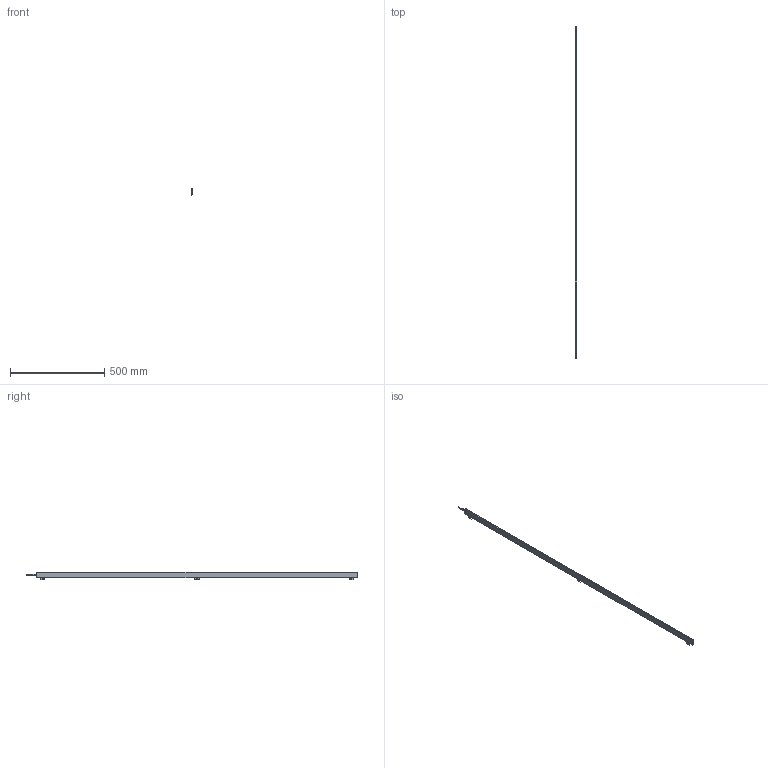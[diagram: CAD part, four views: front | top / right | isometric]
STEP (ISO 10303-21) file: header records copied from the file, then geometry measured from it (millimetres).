
FILE_DESCRIPTION (( 'STEP AP214' ), '1' );
FILE_NAME ('ILG-N-K2-1710mm.STEP', '2017-07-10T14:03:36', ( '' ), ( '' ), 'SwSTEP 2.0', 'SolidWorks 2016', '' );
FILE_SCHEMA (( 'AUTOMOTIVE_DESIGN' ));
Length unit declared in the file: millimetre
Products named in the file (1): ILG-N-K2-1710mm
Bounding box: 10.23 x 1763.5 x 42.41 mm (x, y, z)
Surface area: 287896 mm2 (no closed solid volume)
Topology: 0 solids, 16 shells, 781 faces, 2020 edges, 1269 vertices
Faces by surface type: plane 346, cylinder 297, cone 90, bspline 32, torus 16
Entity records: 34483 total; most frequent: CARTESIAN_POINT 6956, ORIENTED_EDGE 3993, DIRECTION 3858, EDGE_CURVE 2004, AXIS2_PLACEMENT_3D 1419, VERTEX_POINT 1269, LINE 1020, VECTOR 1020
